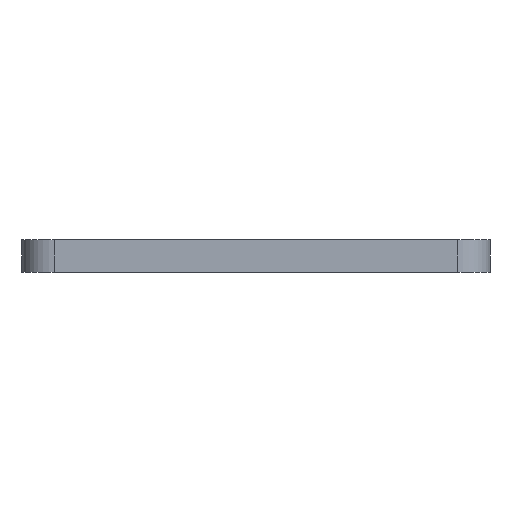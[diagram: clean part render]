
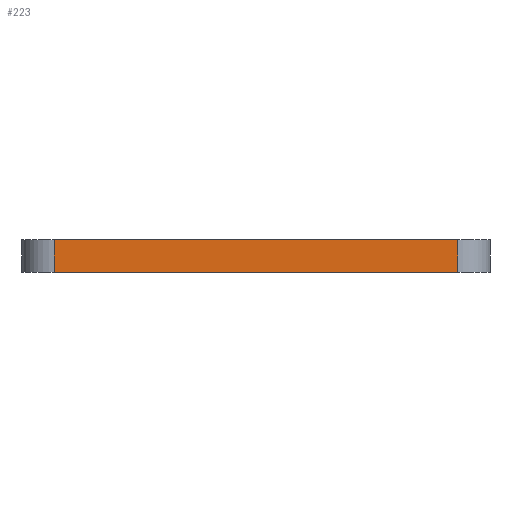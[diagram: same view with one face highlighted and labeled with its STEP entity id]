
A CAD part, front view. The second image highlights one B-rep face of the part: STEP entity #223.
In plain terms, the highlighted planar face has unit normal (0, -1, 0).
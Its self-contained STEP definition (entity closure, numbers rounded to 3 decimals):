
#44 = CYLINDRICAL_SURFACE('',#45,1.);
#45 = AXIS2_PLACEMENT_3D('',#46,#47,#48);
#46 = CARTESIAN_POINT('',(15.,33.75,-17.3));
#47 = DIRECTION('',(0.,0.,-1.));
#48 = DIRECTION('',(-1.,0.,0.));
#72 = PLANE('',#73);
#73 = AXIS2_PLACEMENT_3D('',#74,#75,#76);
#74 = CARTESIAN_POINT('',(21.25,46.5,-16.3));
#75 = DIRECTION('',(0.,0.,1.));
#76 = DIRECTION('',(1.,0.,0.));
#126 = PLANE('',#127);
#127 = AXIS2_PLACEMENT_3D('',#128,#129,#130);
#128 = CARTESIAN_POINT('',(21.25,46.5,-17.3));
#129 = DIRECTION('',(0.,0.,1.));
#130 = DIRECTION('',(1.,0.,0.));
#141 = EDGE_CURVE('',#142,#144,#146,.T.);
#142 = VERTEX_POINT('',#143);
#143 = CARTESIAN_POINT('',(15.,32.75,-17.3));
#144 = VERTEX_POINT('',#145);
#145 = CARTESIAN_POINT('',(15.,32.75,-16.3));
#146 = SURFACE_CURVE('',#147,(#151,#158),.PCURVE_S1.);
#147 = LINE('',#148,#149);
#148 = CARTESIAN_POINT('',(15.,32.75,-17.3));
#149 = VECTOR('',#150,1.);
#150 = DIRECTION('',(0.,0.,1.));
#151 = PCURVE('',#44,#152);
#152 = DEFINITIONAL_REPRESENTATION('',(#153),#157);
#153 = LINE('',#154,#155);
#154 = CARTESIAN_POINT('',(4.712,0.));
#155 = VECTOR('',#156,1.);
#156 = DIRECTION('',(0.,-1.));
#157 = ( GEOMETRIC_REPRESENTATION_CONTEXT(2) 
PARAMETRIC_REPRESENTATION_CONTEXT() REPRESENTATION_CONTEXT('2D SPACE',''
  ) );
#158 = PCURVE('',#159,#164);
#159 = PLANE('',#160);
#160 = AXIS2_PLACEMENT_3D('',#161,#162,#163);
#161 = CARTESIAN_POINT('',(15.,32.75,-17.3));
#162 = DIRECTION('',(0.,1.,0.));
#163 = DIRECTION('',(1.,0.,0.));
#164 = DEFINITIONAL_REPRESENTATION('',(#165),#169);
#165 = LINE('',#166,#167);
#166 = CARTESIAN_POINT('',(0.,0.));
#167 = VECTOR('',#168,1.);
#168 = DIRECTION('',(0.,-1.));
#169 = ( GEOMETRIC_REPRESENTATION_CONTEXT(2) 
PARAMETRIC_REPRESENTATION_CONTEXT() REPRESENTATION_CONTEXT('2D SPACE',''
  ) );
#223 = ADVANCED_FACE('',(#224),#159,.F.);
#224 = FACE_BOUND('',#225,.F.);
#225 = EDGE_LOOP('',(#226,#227,#250,#278));
#226 = ORIENTED_EDGE('',*,*,#141,.T.);
#227 = ORIENTED_EDGE('',*,*,#228,.T.);
#228 = EDGE_CURVE('',#144,#229,#231,.T.);
#229 = VERTEX_POINT('',#230);
#230 = CARTESIAN_POINT('',(27.5,32.75,-16.3));
#231 = SURFACE_CURVE('',#232,(#236,#243),.PCURVE_S1.);
#232 = LINE('',#233,#234);
#233 = CARTESIAN_POINT('',(21.25,32.75,-16.3));
#234 = VECTOR('',#235,1.);
#235 = DIRECTION('',(1.,0.,0.));
#236 = PCURVE('',#159,#237);
#237 = DEFINITIONAL_REPRESENTATION('',(#238),#242);
#238 = LINE('',#239,#240);
#239 = CARTESIAN_POINT('',(6.25,-1.));
#240 = VECTOR('',#241,1.);
#241 = DIRECTION('',(1.,0.));
#242 = ( GEOMETRIC_REPRESENTATION_CONTEXT(2) 
PARAMETRIC_REPRESENTATION_CONTEXT() REPRESENTATION_CONTEXT('2D SPACE',''
  ) );
#243 = PCURVE('',#72,#244);
#244 = DEFINITIONAL_REPRESENTATION('',(#245),#249);
#245 = LINE('',#246,#247);
#246 = CARTESIAN_POINT('',(0.,-13.75));
#247 = VECTOR('',#248,1.);
#248 = DIRECTION('',(1.,0.));
#249 = ( GEOMETRIC_REPRESENTATION_CONTEXT(2) 
PARAMETRIC_REPRESENTATION_CONTEXT() REPRESENTATION_CONTEXT('2D SPACE',''
  ) );
#250 = ORIENTED_EDGE('',*,*,#251,.F.);
#251 = EDGE_CURVE('',#252,#229,#254,.T.);
#252 = VERTEX_POINT('',#253);
#253 = CARTESIAN_POINT('',(27.5,32.75,-17.3));
#254 = SURFACE_CURVE('',#255,(#259,#266),.PCURVE_S1.);
#255 = LINE('',#256,#257);
#256 = CARTESIAN_POINT('',(27.5,32.75,-17.3));
#257 = VECTOR('',#258,1.);
#258 = DIRECTION('',(0.,0.,1.));
#259 = PCURVE('',#159,#260);
#260 = DEFINITIONAL_REPRESENTATION('',(#261),#265);
#261 = LINE('',#262,#263);
#262 = CARTESIAN_POINT('',(12.5,0.));
#263 = VECTOR('',#264,1.);
#264 = DIRECTION('',(0.,-1.));
#265 = ( GEOMETRIC_REPRESENTATION_CONTEXT(2) 
PARAMETRIC_REPRESENTATION_CONTEXT() REPRESENTATION_CONTEXT('2D SPACE',''
  ) );
#266 = PCURVE('',#267,#272);
#267 = CYLINDRICAL_SURFACE('',#268,1.);
#268 = AXIS2_PLACEMENT_3D('',#269,#270,#271);
#269 = CARTESIAN_POINT('',(27.5,33.75,-17.3));
#270 = DIRECTION('',(0.,0.,-1.));
#271 = DIRECTION('',(-1.,0.,0.));
#272 = DEFINITIONAL_REPRESENTATION('',(#273),#277);
#273 = LINE('',#274,#275);
#274 = CARTESIAN_POINT('',(4.712,0.));
#275 = VECTOR('',#276,1.);
#276 = DIRECTION('',(0.,-1.));
#277 = ( GEOMETRIC_REPRESENTATION_CONTEXT(2) 
PARAMETRIC_REPRESENTATION_CONTEXT() REPRESENTATION_CONTEXT('2D SPACE',''
  ) );
#278 = ORIENTED_EDGE('',*,*,#279,.F.);
#279 = EDGE_CURVE('',#142,#252,#280,.T.);
#280 = SURFACE_CURVE('',#281,(#285,#292),.PCURVE_S1.);
#281 = LINE('',#282,#283);
#282 = CARTESIAN_POINT('',(21.25,32.75,-17.3));
#283 = VECTOR('',#284,1.);
#284 = DIRECTION('',(1.,0.,0.));
#285 = PCURVE('',#159,#286);
#286 = DEFINITIONAL_REPRESENTATION('',(#287),#291);
#287 = LINE('',#288,#289);
#288 = CARTESIAN_POINT('',(6.25,0.));
#289 = VECTOR('',#290,1.);
#290 = DIRECTION('',(1.,0.));
#291 = ( GEOMETRIC_REPRESENTATION_CONTEXT(2) 
PARAMETRIC_REPRESENTATION_CONTEXT() REPRESENTATION_CONTEXT('2D SPACE',''
  ) );
#292 = PCURVE('',#126,#293);
#293 = DEFINITIONAL_REPRESENTATION('',(#294),#298);
#294 = LINE('',#295,#296);
#295 = CARTESIAN_POINT('',(0.,-13.75));
#296 = VECTOR('',#297,1.);
#297 = DIRECTION('',(1.,0.));
#298 = ( GEOMETRIC_REPRESENTATION_CONTEXT(2) 
PARAMETRIC_REPRESENTATION_CONTEXT() REPRESENTATION_CONTEXT('2D SPACE',''
  ) );
